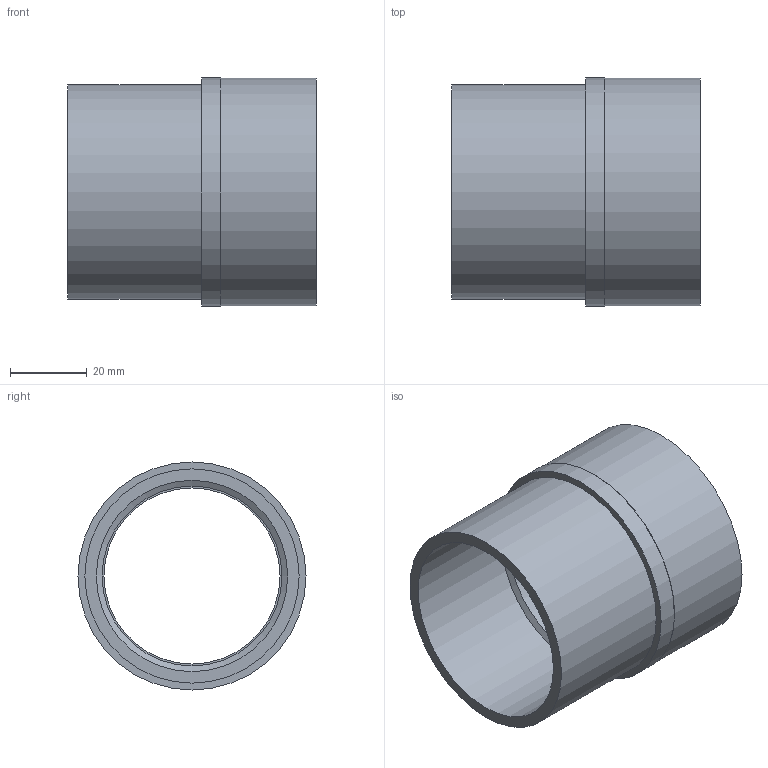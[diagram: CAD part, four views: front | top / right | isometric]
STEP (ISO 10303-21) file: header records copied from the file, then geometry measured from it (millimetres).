
FILE_DESCRIPTION(/* description */ (''),/* implementation_level */ '2;1');
FILE_NAME(/* name */ 'Z:\Geberit\Export\NewStep\Gewindest.m.AG1_Ipart\stp\363728.stp',/* time_stamp */ '2014-04-03T18:40:20+02:00',/* author */ ('nelson'),/* organization */ (''),/* preprocessor_version */ 'ST-DEVELOPER v15.2',/* originating_system */ 'Autodesk Inventor 2014',/* authorisation */ '');
FILE_SCHEMA (('AUTOMOTIVE_DESIGN { 1 0 10303 214 3 1 1 }'));
Length unit declared in the file: millimetre
Products named in the file (1): 363728
Bounding box: 65 x 59.61 x 59.61 mm (x, y, z)
Volume: 50756 mm3; surface area: 30454.3 mm2
Topology: 1 solids, 1 shells, 17 faces, 27 edges, 17 vertices
Faces by surface type: cylinder 8, plane 7, cone 2
Full cylindrical faces by diameter (mm): 46 x1, 47 x1, 48.8 x1, 49 x1, 50 x1, 56 x1, 59.414 x1, 59.614 x1
Entity records: 393 total; most frequent: DIRECTION 70, CARTESIAN_POINT 52, AXIS2_PLACEMENT_3D 35, EDGE_LOOP 34, ORIENTED_EDGE 34, FACE_BOUND 20, STYLED_ITEM 18, CIRCLE 17
